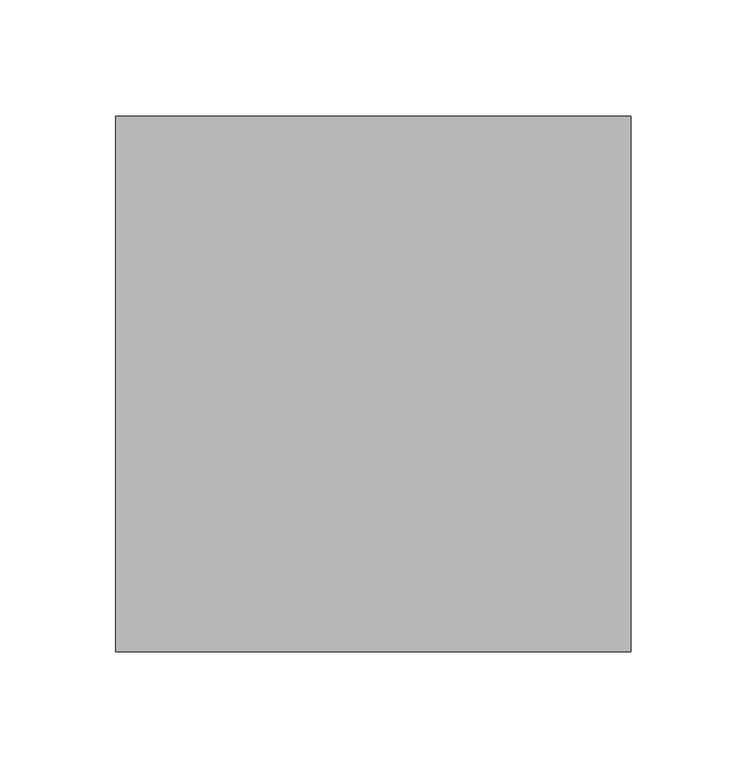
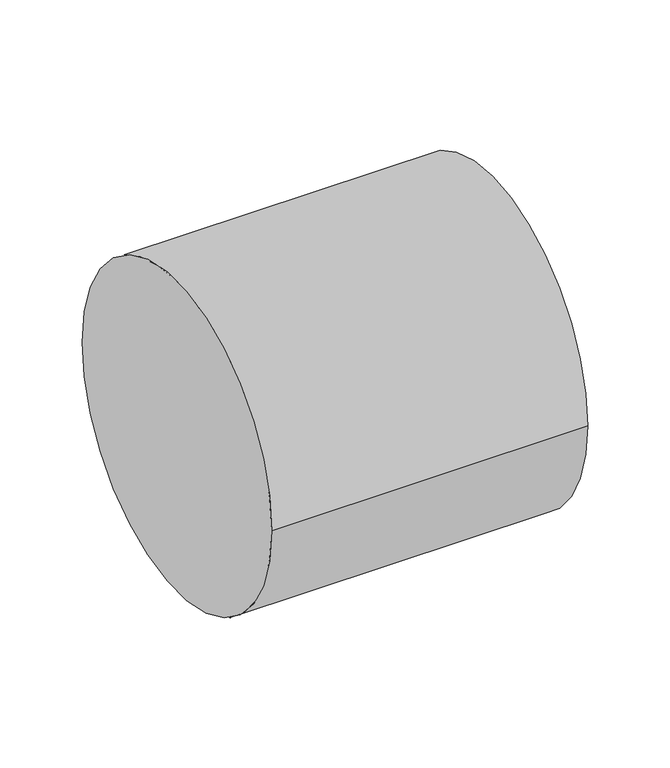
"""IFC4 building model written with IfcOpenShell, lengths in millimetres: pipe fitting geometry, 01051005 : Uniao Simples."""

from ifc_helpers import new_model, si_unit, point, frame, origin, origin_2d, place, context, project, spatial, circle_curve, trimmed, segment, composite_curve, outline, extrude, source, transform, mapped, element, save


def pipe_fitting_87a874fa(model_context):
    return source(origin(), model_context, "Body", "SweptSolid", [
        extrude(outline(composite_curve([segment(trimmed(circle_curve(origin_2d(), 115.5), [point((-115.5, 0.0))], [point((115.5, 0.0))], False, "CARTESIAN"), True, "CONTINUOUS"), segment(trimmed(circle_curve(origin_2d(), 115.5), [point((115.5, 0.0))], [point((-115.5, 0.0))], False, "CARTESIAN"), True, "CONTINUOUS")], self_intersect=False)), frame((-111.0, 0.0, 0.0), z_axis=(1.0, 0.0, 0.0), x_axis=(0.0, 1.0, 0.0)), (0.0, 0.0, 1.0), 222.0),
    ])


if __name__ == "__main__":
    model = new_model("IFC4")
    model_context = context("Model", 3, world=origin())
    ifc_project = project(units=[si_unit("LENGTHUNIT", "METRE", prefix="MILLI")], contexts=[model_context])
    site = spatial("IfcSite", under=ifc_project)
    building = spatial("IfcBuilding", under=site)
    placement = place(None, origin())
    pipe_fitting_shape = pipe_fitting_87a874fa(model_context)
    element("IfcPipeFitting", 1, ObjectType="01051005 : Uniao Simples", at=placement, inside=building, context=model_context, shape_type="MappedRepresentation", body=[
        mapped(pipe_fitting_shape, transform((0.0, 0.0, 0.0), x_axis=(1.0, 0.0, 0.0), y_axis=(0.0, 1.0, 0.0), z_axis=(0.0, 0.0, 1.0))),
    ])
    save(model, "model.ifc")
